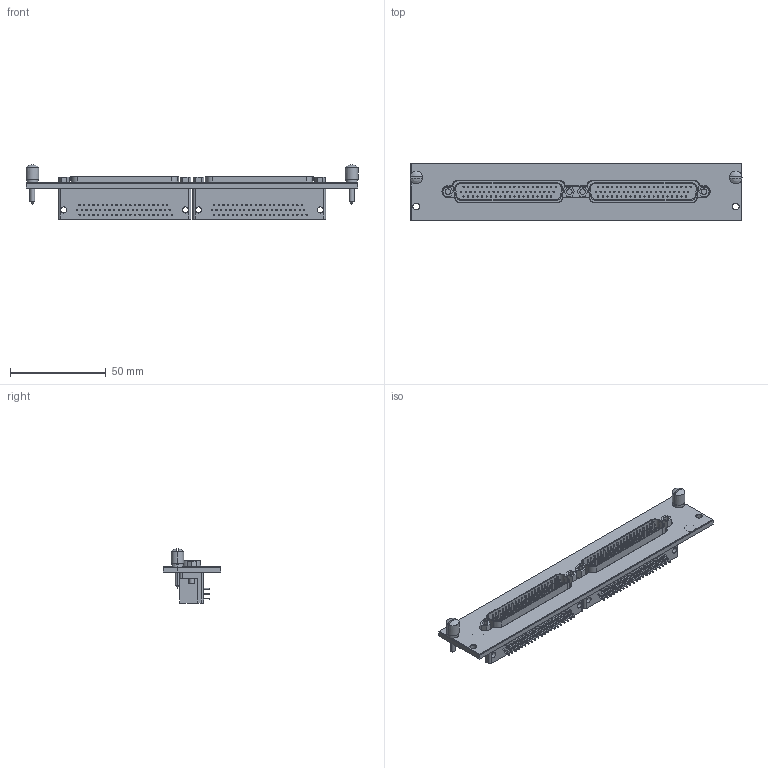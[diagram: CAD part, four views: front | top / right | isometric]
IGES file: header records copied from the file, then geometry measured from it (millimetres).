
Start section:  PTC IGES file: cu_scxi-1166.igs
Global section: file name: cu_scxi-1166.igs; native system: Pro/ENGINEER by Parametric Technology Corporation; preprocessor: 2006080; author: jjorden; organization: Unknown; date: 091125.153204; units: inch
Bounding box: 173.51 x 30.18 x 28.33 mm (x, y, z)
Surface area: 24114.3 mm2 (no closed solid volume)
Topology: 0 solids, 0 shells, 1023 faces, 4424 edges, 4420 vertices
Faces by surface type: revolution 622, bspline 401
